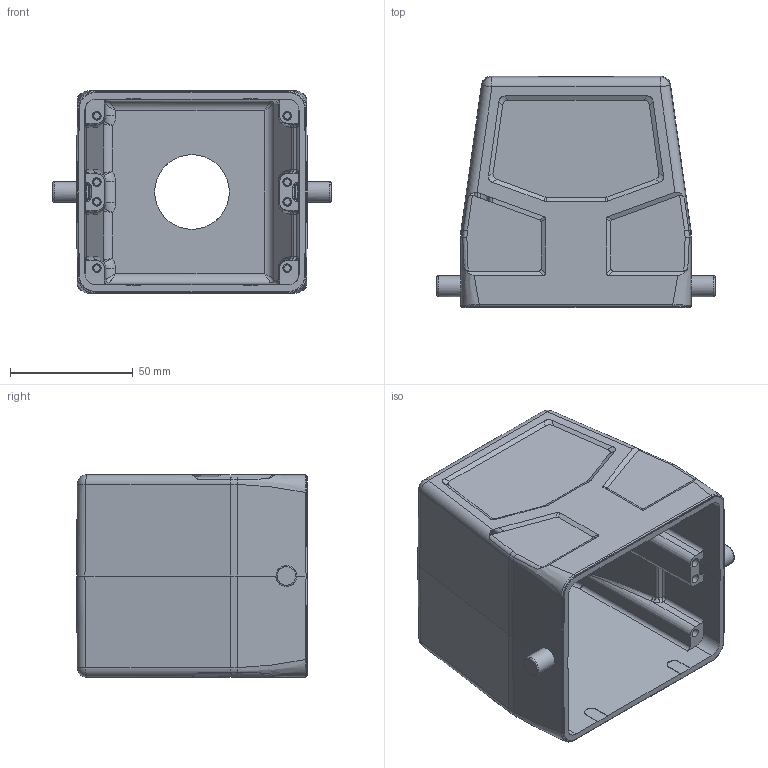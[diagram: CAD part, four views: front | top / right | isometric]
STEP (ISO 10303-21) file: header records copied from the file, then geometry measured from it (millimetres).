
FILE_DESCRIPTION (( 'STEP AP203' ), '1' );
FILE_NAME ('H32B-TG-RO-M32.STEP', '2023-06-13T07:33:13', ( '' ), ( '' ), 'SwSTEP 2.0', 'SolidWorks 2016', '' );
FILE_SCHEMA (( 'CONFIG_CONTROL_DESIGN' ));
Length unit declared in the file: millimetre
Products named in the file (1): H32B-TG-RO-M32
Bounding box: 113.2 x 94 x 82.5 mm (x, y, z)
Volume: 162654.7 mm3; surface area: 71298.3 mm2
Topology: 1 solids, 1 shells, 347 faces, 904 edges, 562 vertices
Faces by surface type: cylinder 130, plane 125, bspline 57, torus 13, cone 12, sphere 10
Full cylindrical faces by diameter (mm): 2.7 x8, 3.5 x8, 8.5 x2, 30.4 x1
Entity records: 18023 total; most frequent: CARTESIAN_POINT 10775, ORIENTED_EDGE 1726, DIRECTION 1070, EDGE_CURVE 863, VERTEX_POINT 557, EDGE_LOOP 388, B_SPLINE_CURVE_WITH_KNOTS 373, FACE_OUTER_BOUND 368
